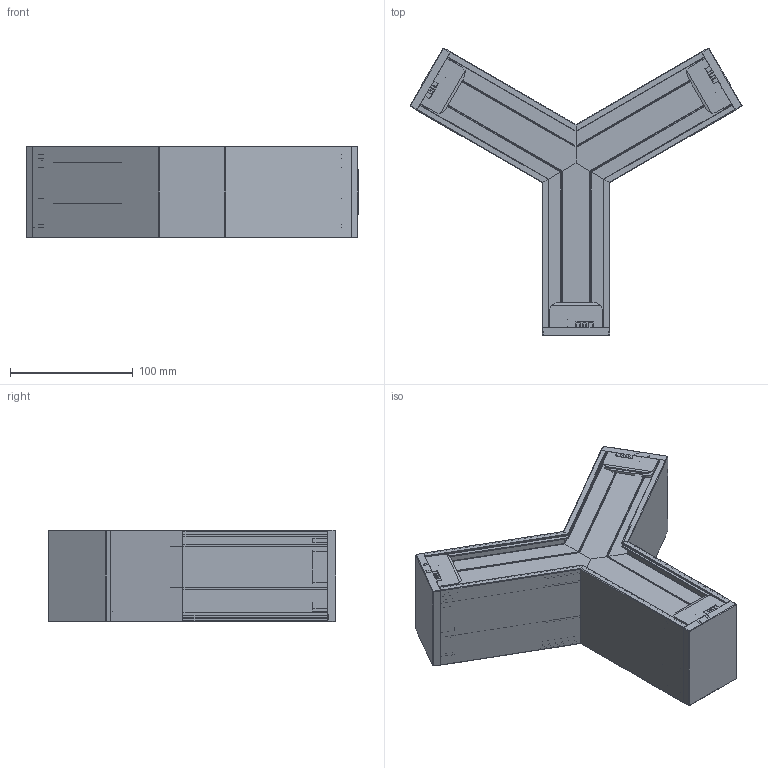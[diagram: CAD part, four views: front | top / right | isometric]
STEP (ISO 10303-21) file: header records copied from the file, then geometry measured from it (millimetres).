
FILE_DESCRIPTION(/* description */ (''),/* implementation_level */ '2;1');
FILE_NAME(/* name */ 'KISSY-~1',/* time_stamp */ '2026-04-27T15:47:50+02:00',/* author */ (''),/* organization */ (''),/* preprocessor_version */ 'ST-DEVELOPER v16.5',/* originating_system */ '',/* authorisation */ '');
FILE_SCHEMA (('AUTOMOTIVE_DESIGN'));
Products named in the file (1): Document
Bounding box: 270.94 x 234.78 x 75 mm (x, y, z)
Volume: 114319.3 mm3; surface area: 376286.6 mm2
Topology: 10 solids, 11 shells, 3321 faces, 9093 edges, 5790 vertices
Faces by surface type: bspline 3321
Entity records: 262269 total; most frequent: CARTESIAN_POINT 147981, B_SPLINE_CURVE_WITH_KNOTS 23889, ORIENTED_EDGE 18126, PCURVE 18126, DEFINITIONAL_REPRESENTATION 18126, SURFACE_CURVE 9075, EDGE_CURVE 9075, VERTEX_POINT 5790
